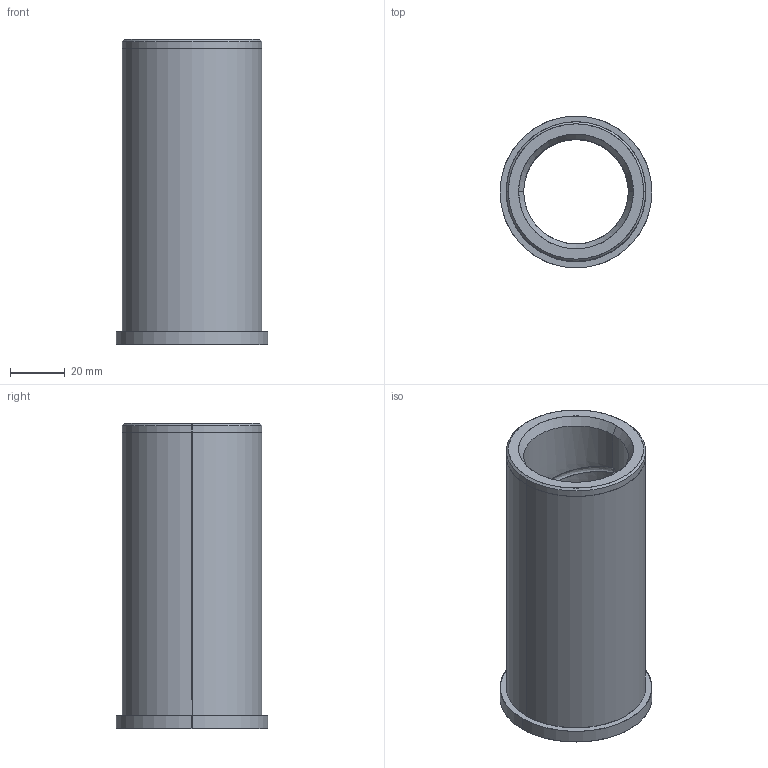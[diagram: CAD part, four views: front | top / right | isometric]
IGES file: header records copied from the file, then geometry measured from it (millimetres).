
Start section: SolidWorks IGES file using analytic representation for surfaces
Global section: file name: D:\Current\W2\SBF 12-43.igs; native system: SolidWorks 2017; preprocessor: SolidWorks 2017; author: Ravi Kalvai; date: 230530.114904; units: inch
Bounding box: 55.3 x 55.3 x 111.12 mm (x, y, z)
Surface area: 33470.4 mm2 (no closed solid volume)
Topology: 0 solids, 0 shells, 32 faces, 1306 edges, 1306 vertices
Faces by surface type: revolution 20, bspline 12
